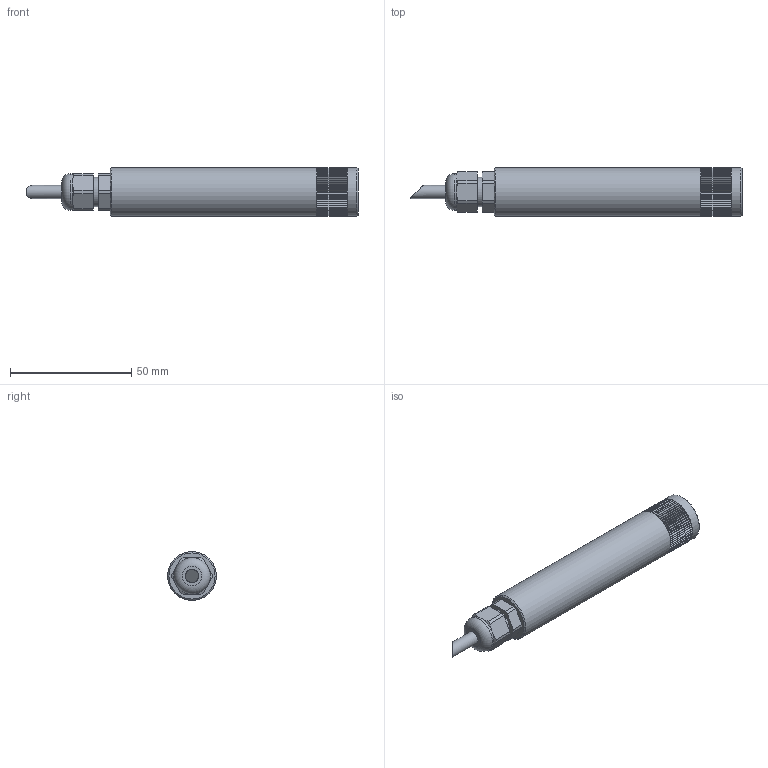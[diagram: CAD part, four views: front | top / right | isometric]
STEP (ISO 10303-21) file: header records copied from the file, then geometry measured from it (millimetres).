
FILE_DESCRIPTION((''),'1');
FILE_NAME('C:/Documents and Settings/y.kawashima/デスクトップ/LDU33 outline.stp','2010-04-14T11:45:27',(''),(''),'Spatial Interop R18','Kubotek KeyCreator V8.5.1 (14335)',' ');
FILE_SCHEMA(('automotive_design'));
Length unit declared in the file: millimetre
Products named in the file (4): solid[2]; 1
Bounding box: 136.7 x 20 x 20 mm (x, y, z)
Volume: 35154.4 mm3; surface area: 10644.9 mm2
Topology: 3 solids, 3 shells, 317 faces, 902 edges, 602 vertices
Faces by surface type: cylinder 137, bspline 128, plane 43, cone 8, torus 1
Full cylindrical faces by diameter (mm): 5.4 x1, 6 x1, 12 x1, 15 x1, 16 x2, 16.4 x1, 20 x2
Entity records: 19908 total; most frequent: CARTESIAN_POINT 4013, ORIENTED_EDGE 1768, PRESENTATION_STYLE_ASSIGNMENT 1532, COLOUR_RGB 1532, DIRECTION 1288, STYLED_ITEM 1212, CURVE_STYLE 1212, DRAUGHTING_PRE_DEFINED_CURVE_FONT 1212
